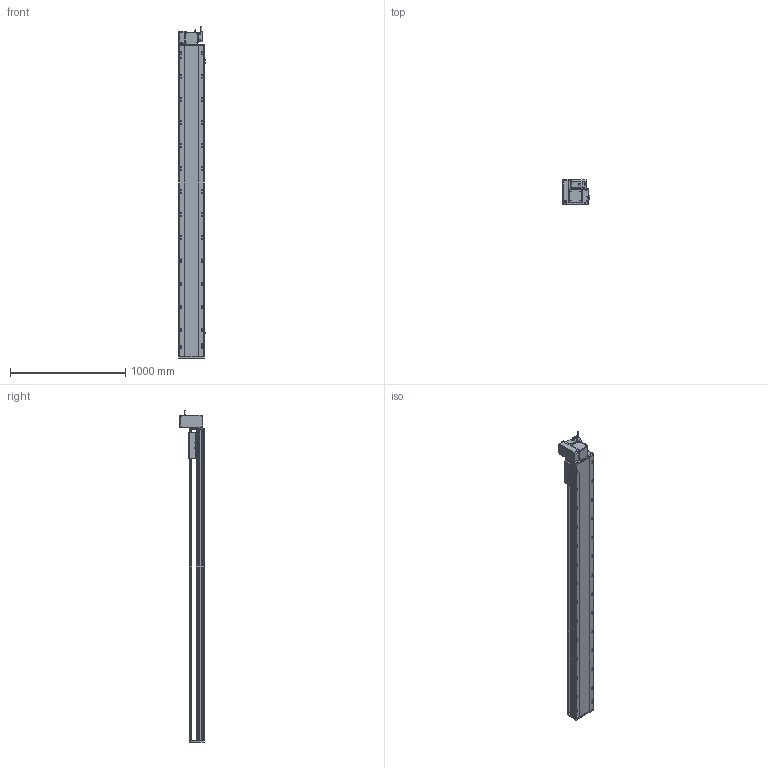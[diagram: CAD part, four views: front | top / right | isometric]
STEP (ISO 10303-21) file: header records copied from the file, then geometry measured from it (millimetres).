
FILE_DESCRIPTION (( 'STEP AP214' ), '1' );
FILE_NAME ('RTB22S-XX-2350-LW-M75-C4.STEP', '2025-12-12T06:02:47', ( '' ), ( '' ), 'SwSTEP 2.0', 'SolidWorks 2018', '' );
FILE_SCHEMA (( 'AUTOMOTIVE_DESIGN' ));
Length unit declared in the file: millimetre
Products named in the file (14): RTB22S-LW-々湍釱蚾饜^RTB22S-XX-XX-LW-M75-C4; RTB22S-GY-001耜裔^RTB22S-XX-XX-LW-M75-C4; RTB22S-GY-005P^RTB22S-LW-々湍釱蚾饜_RTB22S-XX-XX-LW-M75-C4; RTB22S-GY-018P^RTB22S-LW-々湍釱蚾饜_RTB22S-XX-XX-LW-M75-C4; OMRON EE-SX672 传感器^RTB22S-XX-XX-LW-M75-C4; RTH22-GY-013外置感应片^RTB22S-XX-XX-LW-M75-C4; RTB22S-XX-2350-LW-M75-C4; RTB22S-L-004賑釱^RTB22S-XX-XX-LW-M75-C4; RTB22S-GY-014--々湍釱^RTB22S-LW-々湍釱蚾饜_RTB22S-XX-XX-LW-M75-C4; 750W萇儂^RTB22S-XX-XX-LW-M75-C4; RTB22S-GY-017P^RTB22S-LW-々湍釱蚾饜_RTB22S-XX-XX-LW-M75-C4; RTB22S-GY-007奻裔^RTB22S-XX-XX-LW-M75-C4; RTB22S-GY-008-M75--萇儂啣^RTB22S-LW-々湍釱蚾饜_RTB22S-XX-XX-LW-M75-C4; RTB22S-L-011菁釱^RTB22S-XX-XX-LW-M75-C4
Assembly tree (16 placements, depth 3):
  RTB22S-XX-2350-LW-M75-C4
    RTB22S-L-011菁釱^RTB22S-XX-XX-LW-M75-C4
    RTB22S-GY-001耜裔^RTB22S-XX-XX-LW-M75-C4
    750W萇儂^RTB22S-XX-XX-LW-M75-C4
    RTB22S-GY-007奻裔^RTB22S-XX-XX-LW-M75-C4
    RTB22S-L-004賑釱^RTB22S-XX-XX-LW-M75-C4
    RTH22-GY-013外置感应片^RTB22S-XX-XX-LW-M75-C4
    OMRON EE-SX672 传感器^RTB22S-XX-XX-LW-M75-C4  x3
    RTB22S-LW-々湍釱蚾饜^RTB22S-XX-XX-LW-M75-C4
      RTB22S-GY-014--々湍釱^RTB22S-LW-々湍釱蚾饜_RTB22S-XX-XX-LW-M75-C4
      RTB22S-GY-017P^RTB22S-LW-々湍釱蚾饜_RTB22S-XX-XX-LW-M75-C4  x2
      RTB22S-GY-005P^RTB22S-LW-々湍釱蚾饜_RTB22S-XX-XX-LW-M75-C4
      RTB22S-GY-008-M75--萇儂啣^RTB22S-LW-々湍釱蚾饜_RTB22S-XX-XX-LW-M75-C4
      RTB22S-GY-018P^RTB22S-LW-々湍釱蚾饜_RTB22S-XX-XX-LW-M75-C4
Bounding box: 238.5 x 215.5 x 2882.2 mm (x, y, z)
Volume: 37017783.9 mm3; surface area: 3788727.3 mm2
Topology: 15 solids, 15 shells, 2091 faces, 5686 edges, 3632 vertices
Faces by surface type: plane 927, cylinder 694, bspline 296, cone 162, sphere 8, torus 4
Entity records: 56716 total; most frequent: CARTESIAN_POINT 16060, ORIENTED_EDGE 8112, DIRECTION 7910, EDGE_CURVE 4056, AXIS2_PLACEMENT_3D 2830, VERTEX_POINT 2636, VECTOR 2250, LINE 2250
